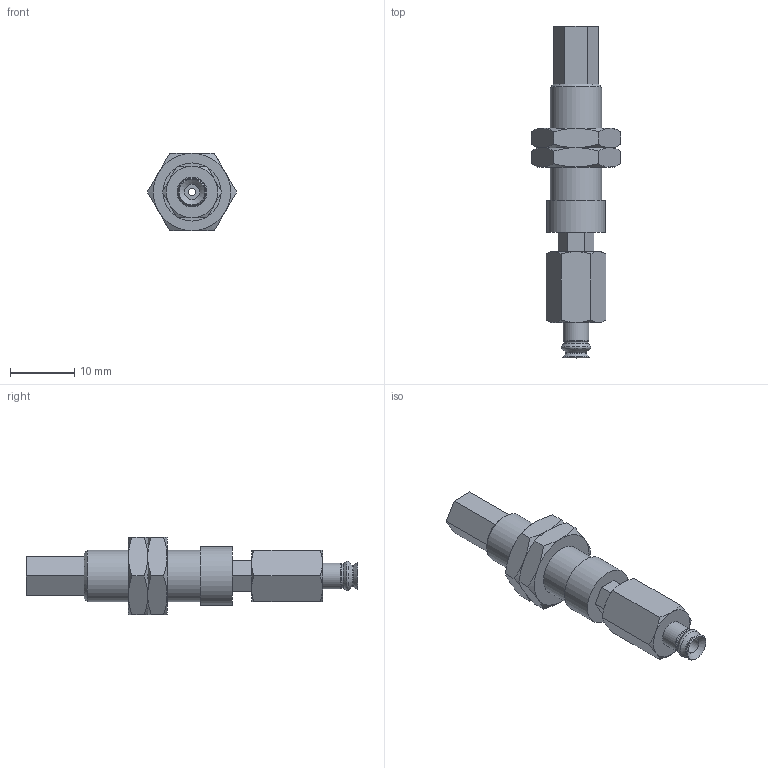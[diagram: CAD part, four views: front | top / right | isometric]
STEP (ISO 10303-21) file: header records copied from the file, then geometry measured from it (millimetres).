
FILE_DESCRIPTION(('STEP AP203'),'1');
FILE_NAME('.stp','2025-08-27T06:06:24',(' '),(' '),'Spatial InterOp 3D',' ',' ');
FILE_SCHEMA(('CONFIG_CONTROL_DESIGN'));
Length unit declared in the file: millimetre
Products named in the file (6): BNABPJTH-4-3-※; ADAPTER; NAPFTH-2A-3-MBODY; Nut-2A-3-h; NAPFTH-2A-3-FBODY; BPJG-4-※
Assembly tree (6 placements, depth 2):
  BNABPJTH-4-3-※
    ADAPTER
    NAPFTH-2A-3-MBODY
    Nut-2A-3-h  x2
    NAPFTH-2A-3-FBODY
    BPJG-4-※
Bounding box: 13.86 x 51.5 x 12 mm (x, y, z)
Volume: 2643.1 mm3; surface area: 3173.9 mm2
Topology: 6 solids, 6 shells, 124 faces, 271 edges, 164 vertices
Faces by surface type: plane 53, cone 49, cylinder 13, torus 9
Full cylindrical faces by diameter (mm): 1.2 x2, 2 x2, 2.4 x1, 2.459 x1, 3 x2, 4 x1, 7.188 x2, 8 x1, 9 x1
Entity records: 3004 total; most frequent: CARTESIAN_POINT 702, DIRECTION 414, ORIENTED_EDGE 360, EDGE_CURVE 180, AXIS2_PLACEMENT_3D 174, EDGE_LOOP 148, VERTEX_POINT 126, FACE_OUTER_BOUND 122
